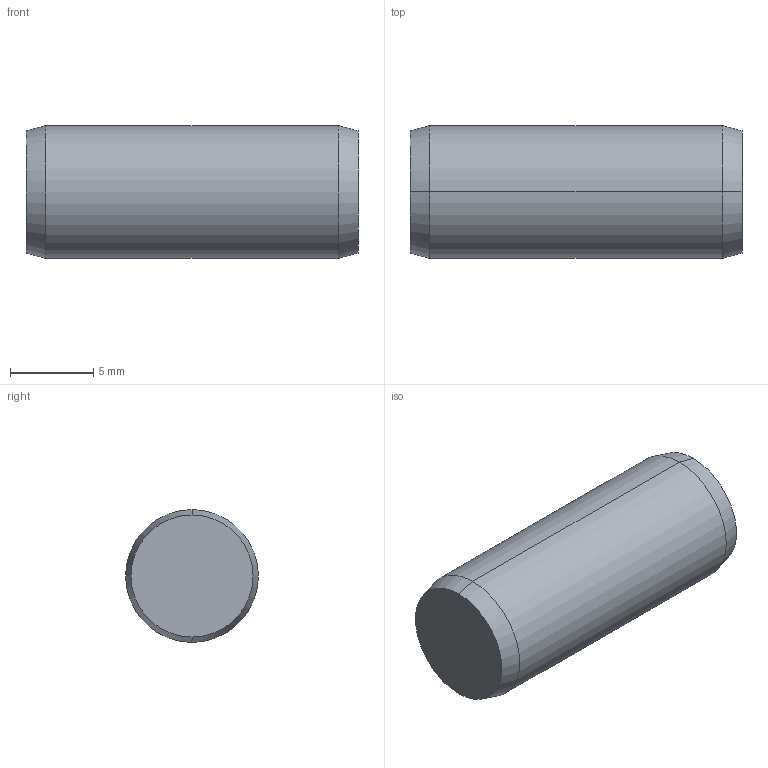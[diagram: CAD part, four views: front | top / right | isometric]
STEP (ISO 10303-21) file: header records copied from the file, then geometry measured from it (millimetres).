
FILE_DESCRIPTION (( 'STEP AP203' ), '1' );
FILE_NAME ('P1206.080-020.step', '2017-06-14T08:26:06', ( 'User' ), ( '' ), 'SwSTEP 2.0', 'SolidWorks 2009', '' );
FILE_SCHEMA (( 'CONFIG_CONTROL_DESIGN' ));
Length unit declared in the file: millimetre
Products named in the file (1): P1206.080-020
Bounding box: 20 x 8 x 8 mm (x, y, z)
Volume: 995.9 mm3; surface area: 587.3 mm2
Topology: 1 solids, 1 shells, 8 faces, 14 edges, 8 vertices
Faces by surface type: cone 4, cylinder 2, plane 2
Entity records: 271 total; most frequent: DIRECTION 40, CARTESIAN_POINT 31, ORIENTED_EDGE 28, AXIS2_PLACEMENT_3D 17, EDGE_CURVE 14, FACE_OUTER_BOUND 8, CIRCLE 8, ADVANCED_FACE 8
